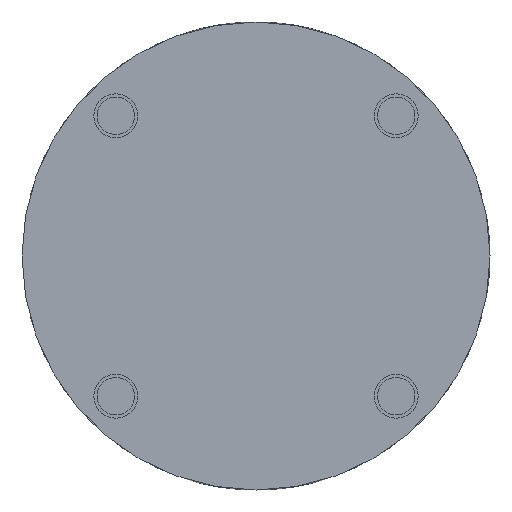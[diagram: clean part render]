
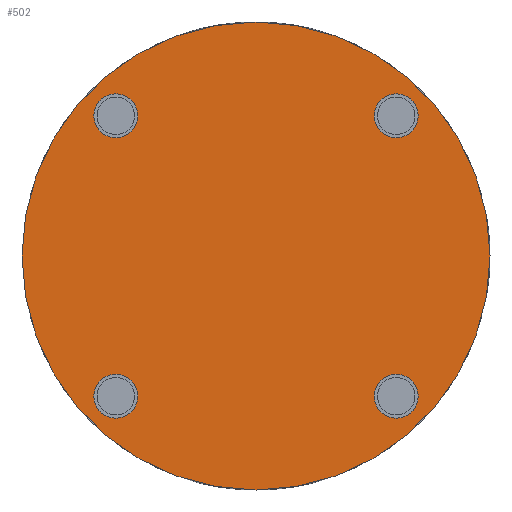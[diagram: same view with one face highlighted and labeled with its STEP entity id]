
A CAD part, front view. The second image highlights one B-rep face of the part: STEP entity #502.
In plain terms, the highlighted planar face has unit normal (0, -1, 0).
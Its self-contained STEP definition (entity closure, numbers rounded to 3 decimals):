
#221=CARTESIAN_POINT('',(-0.0,0.0,42.5));
#222=VERTEX_POINT('',#221);
#229=CARTESIAN_POINT('',(0.0,0.0,-42.5));
#230=VERTEX_POINT('',#229);
#231=CARTESIAN_POINT('',(0.0,0.0,0.0));
#232=DIRECTION('',(-0.0,1.0,0.0));
#233=DIRECTION('',(0.0,0.0,-1.0));
#234=AXIS2_PLACEMENT_3D('',#231,#232,#233);
#235=CIRCLE('',#234,42.5);
#236=EDGE_CURVE('no 978',#222,#230,#235,.T.);
#407=CARTESIAN_POINT('',(25.456,0.0,21.456));
#408=VERTEX_POINT('',#407);
#409=CARTESIAN_POINT('',(25.456,0.0,29.456));
#410=VERTEX_POINT('',#409);
#411=CARTESIAN_POINT('',(25.456,0.0,25.456));
#412=DIRECTION('',(0.0,-1.0,0.0));
#413=DIRECTION('',(0.0,0.0,1.0));
#414=AXIS2_PLACEMENT_3D('',#411,#412,#413);
#415=CIRCLE('',#414,4.0);
#416=EDGE_CURVE('no 1052',#408,#410,#415,.T.);
#417=ORIENTED_EDGE('',*,*,#416,.F.);
#418=CARTESIAN_POINT('',(25.456,0.0,25.456));
#419=DIRECTION('',(0.0,-1.0,0.0));
#420=DIRECTION('',(0.0,0.0,1.0));
#421=AXIS2_PLACEMENT_3D('',#418,#419,#420);
#422=CIRCLE('',#421,4.0);
#423=EDGE_CURVE('no 1056',#410,#408,#422,.T.);
#424=ORIENTED_EDGE('',*,*,#423,.F.);
#425=EDGE_LOOP('',(#417,#424));
#426=FACE_BOUND('',#425,.T.);
#427=CARTESIAN_POINT('',(25.456,0.0,-29.456));
#428=VERTEX_POINT('',#427);
#429=CARTESIAN_POINT('',(25.456,0.0,-21.456));
#430=VERTEX_POINT('',#429);
#431=CARTESIAN_POINT('',(25.456,0.0,-25.456));
#432=DIRECTION('',(0.0,-1.0,0.0));
#433=DIRECTION('',(0.0,0.0,1.0));
#434=AXIS2_PLACEMENT_3D('',#431,#432,#433);
#435=CIRCLE('',#434,4.0);
#436=EDGE_CURVE('no 1065',#428,#430,#435,.T.);
#437=ORIENTED_EDGE('',*,*,#436,.F.);
#438=CARTESIAN_POINT('',(25.456,0.0,-25.456));
#439=DIRECTION('',(0.0,-1.0,0.0));
#440=DIRECTION('',(0.0,0.0,1.0));
#441=AXIS2_PLACEMENT_3D('',#438,#439,#440);
#442=CIRCLE('',#441,4.0);
#443=EDGE_CURVE('no 1069',#430,#428,#442,.T.);
#444=ORIENTED_EDGE('',*,*,#443,.F.);
#445=EDGE_LOOP('',(#437,#444));
#446=FACE_BOUND('',#445,.T.);
#447=CARTESIAN_POINT('',(-25.456,-0.0,-29.456));
#448=VERTEX_POINT('',#447);
#449=CARTESIAN_POINT('',(-25.456,-0.0,-21.456));
#450=VERTEX_POINT('',#449);
#451=CARTESIAN_POINT('',(-25.456,-0.0,-25.456));
#452=DIRECTION('',(0.0,-1.0,0.0));
#453=DIRECTION('',(0.0,0.0,1.0));
#454=AXIS2_PLACEMENT_3D('',#451,#452,#453);
#455=CIRCLE('',#454,4.0);
#456=EDGE_CURVE('no 1078',#448,#450,#455,.T.);
#457=ORIENTED_EDGE('',*,*,#456,.F.);
#458=CARTESIAN_POINT('',(-25.456,-0.0,-25.456));
#459=DIRECTION('',(0.0,-1.0,0.0));
#460=DIRECTION('',(0.0,0.0,1.0));
#461=AXIS2_PLACEMENT_3D('',#458,#459,#460);
#462=CIRCLE('',#461,4.0);
#463=EDGE_CURVE('no 1082',#450,#448,#462,.T.);
#464=ORIENTED_EDGE('',*,*,#463,.F.);
#465=EDGE_LOOP('',(#457,#464));
#466=FACE_BOUND('',#465,.T.);
#467=CARTESIAN_POINT('',(-25.456,-0.0,21.456));
#468=VERTEX_POINT('',#467);
#469=CARTESIAN_POINT('',(-25.456,-0.0,29.456));
#470=VERTEX_POINT('',#469);
#471=CARTESIAN_POINT('',(-25.456,-0.0,25.456));
#472=DIRECTION('',(0.0,-1.0,0.0));
#473=DIRECTION('',(0.0,0.0,1.0));
#474=AXIS2_PLACEMENT_3D('',#471,#472,#473);
#475=CIRCLE('',#474,4.0);
#476=EDGE_CURVE('no 1091',#468,#470,#475,.T.);
#477=ORIENTED_EDGE('',*,*,#476,.F.);
#478=CARTESIAN_POINT('',(-25.456,-0.0,25.456));
#479=DIRECTION('',(0.0,-1.0,0.0));
#480=DIRECTION('',(0.0,0.0,1.0));
#481=AXIS2_PLACEMENT_3D('',#478,#479,#480);
#482=CIRCLE('',#481,4.0);
#483=EDGE_CURVE('no 1095',#470,#468,#482,.T.);
#484=ORIENTED_EDGE('',*,*,#483,.F.);
#485=EDGE_LOOP('',(#477,#484));
#486=FACE_BOUND('',#485,.T.);
#487=ORIENTED_EDGE('',*,*,#236,.F.);
#488=CARTESIAN_POINT('',(0.0,0.0,0.0));
#489=DIRECTION('',(-0.0,1.0,0.0));
#490=DIRECTION('',(0.0,0.0,-1.0));
#491=AXIS2_PLACEMENT_3D('',#488,#489,#490);
#492=CIRCLE('',#491,42.5);
#493=EDGE_CURVE('no 1102',#230,#222,#492,.T.);
#494=ORIENTED_EDGE('',*,*,#493,.F.);
#495=EDGE_LOOP('',(#487,#494));
#496=FACE_OUTER_BOUND('',#495,.T.);
#497=CARTESIAN_POINT('',(0.0,0.0,0.0));
#498=DIRECTION('',(-0.0,1.0,0.0));
#499=DIRECTION('',(0.0,0.0,-1.0));
#500=AXIS2_PLACEMENT_3D('',#497,#498,#499);
#501=PLANE('',#500);
#502=ADVANCED_FACE('no 1043',(#426,#446,#466,#486,#496),#501,.F.);
